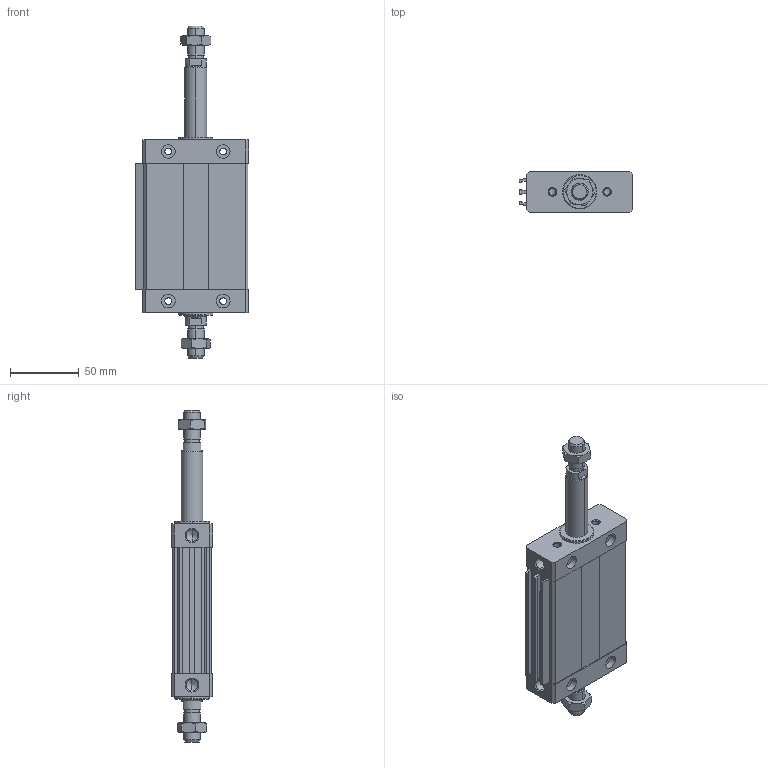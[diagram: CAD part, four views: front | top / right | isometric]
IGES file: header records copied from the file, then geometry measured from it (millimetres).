
Global section: file name: No Iges File Name specified; native system: Autodesk Inventor 2011; preprocessor: AutoDesk Inventor Iges Exporter R2011; author: airolcr1; date: 20101213.153128; units: millimetre
Bounding box: 82.5 x 30 x 242 mm (x, y, z)
Volume: 245641.4 mm3; surface area: 82412.7 mm2
Topology: 6 solids, 6 shells, 276 faces, 652 edges, 396 vertices
Faces by surface type: bspline 110, plane 98, cone 36, cylinder 18, revolution 14
